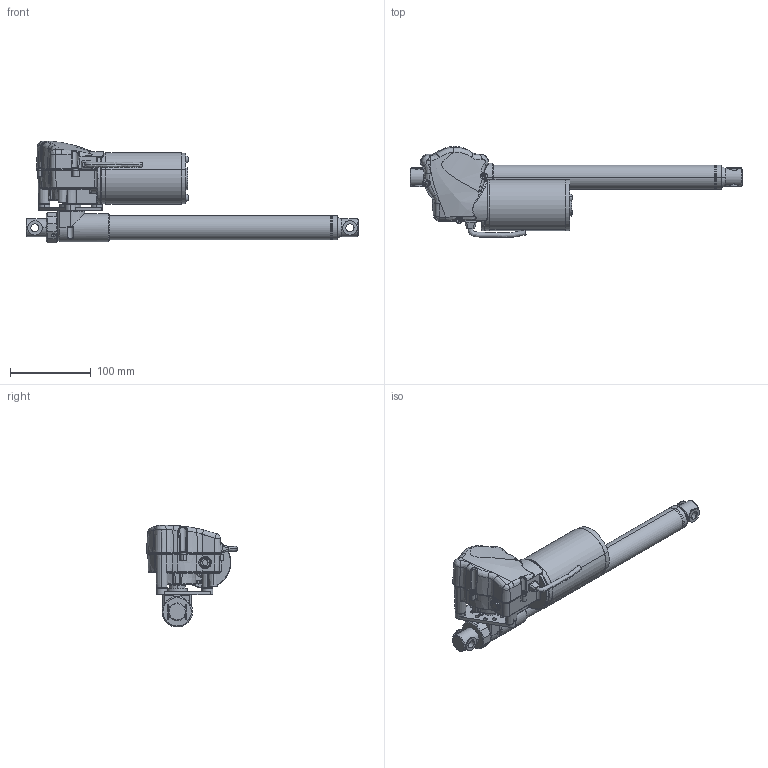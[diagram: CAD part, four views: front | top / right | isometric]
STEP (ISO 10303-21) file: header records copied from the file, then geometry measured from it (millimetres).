
FILE_DESCRIPTION (( 'STEP AP203' ), '1' );
FILE_NAME ('MD57.STEP', '2017-02-03T03:46:08', ( '' ), ( '' ), 'SwSTEP 2.0', 'SolidWorks 2012', '' );
FILE_SCHEMA (( 'CONFIG_CONTROL_DESIGN' ));
Length unit declared in the file: millimetre
Products named in the file (22): MD57; MD56 組合件; SR; 111; (新)蓋板; (4圈)煞車彈簧; 旋轉支撐板; 0_COMPONENTS_4; (新)蝸輪軸心; (新)60T蝸輪; ID10 Motor; (拔模) MD56蝸齒輪箱; FORNT; INNER-TUBE; 52ID13BB08; 18; 19; OUT-TUBE-100-TWO-156-ROTATE; 22-3; 16T_ANY-B; 34; 4-F
Assembly tree (21 placements, depth 3):
  MD57
    4-F
    34
    16T_ANY-B
    22-3
    OUT-TUBE-100-TWO-156-ROTATE
    19
    18
    52ID13BB08
    INNER-TUBE
    FORNT
    MD56 組合件
      (拔模) MD56蝸齒輪箱
      ID10 Motor
      (新)60T蝸輪
      (新)蝸輪軸心
      0_COMPONENTS_4
      旋轉支撐板
      (4圈)煞車彈簧
      (新)蓋板
      111
      SR
Bounding box: 411.1 x 112.78 x 125.75 mm (x, y, z)
Volume: 610819.3 mm3; surface area: 284133.3 mm2
Topology: 19 solids, 27 shells, 2332 faces, 6128 edges, 3957 vertices
Faces by surface type: cylinder 784, plane 778, bspline 606, cone 164
Entity records: 121094 total; most frequent: CARTESIAN_POINT 65217, ORIENTED_EDGE 12210, DIRECTION 9697, EDGE_CURVE 6109, VERTEX_POINT 3957, AXIS2_PLACEMENT_3D 3654, EDGE_LOOP 2592, VECTOR 2389
